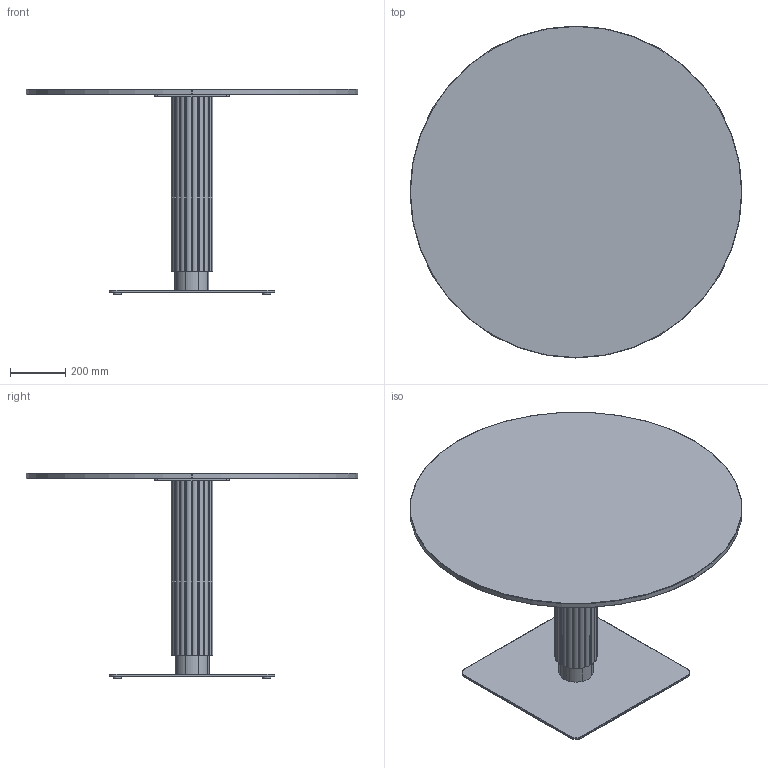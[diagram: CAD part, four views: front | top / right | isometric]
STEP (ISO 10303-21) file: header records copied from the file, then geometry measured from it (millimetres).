
FILE_DESCRIPTION( ('This file contains a STEP AP42 implementation' ,'as created by ZW3D STEP Interface translator.') ,'2;1' );
FILE_NAME( 'God - B_Carré - F1 - M1 - 1200 x 1200 x 750.stp' ,'24 912. 92615', (''), ('ZWCAD Software Co.'), 'Version 1.0', 'ZW3D to STEP translator', '' );
FILE_SCHEMA(('AUTOMOTIVE_DESIGN { 1 0 10303 214 1 1 1 1 }'));
Length unit declared in the file: millimetre
Products named in the file (15): 0; PIED BISTROT PARAMETRIQUE_; CROIX ACIER 370 V.02_; CRX-X370-02_; SOCLE ACIER L 600x600 V.02_; SCL-R600-02_; PLA-R30A-01_; PLA-R30A-01; COLONNE ACIER Ø48.5 V.02_; TUB-D048-02_; PLA-R48A-01_; Colonne GODRON H700_; WUERTH 0276063020 Euro-screw 6.3x2 Verzinkt_; PLATEAU BISTROT PARAMETRIQUE_; insert_m6_13_
Assembly tree (23 placements, depth 3):
  0
  PIED BISTROT PARAMETRIQUE_
    CROIX ACIER 370 V.02_
      CRX-X370-02_
    SOCLE ACIER L 600x600 V.02_
      SCL-R600-02_
      PLA-R30A-01_
      PLA-R30A-01  x3
    COLONNE ACIER Ø48.5 V.02_
      TUB-D048-02_
      PLA-R48A-01_  x2
    Colonne GODRON H700_
    WUERTH 0276063020 Euro-screw 6.3x2 Verzinkt_
    PLATEAU BISTROT PARAMETRIQUE_
      insert_m6_13_  x8
Bounding box: 1200 x 1200 x 744 mm (x, y, z)
Volume: 36550478.7 mm3; surface area: 4483020.1 mm2
Topology: 27 solids, 27 shells, 669 faces, 1662 edges, 1062 vertices
Faces by surface type: plane 302, cylinder 192, bspline 121, cone 53, torus 1
Full cylindrical faces by diameter (mm): 4.88 x1, 6 x8, 6.3 x1, 8 x45, 12 x2, 14 x2, 30 x4, 44.5 x3, 48.5 x1
Entity records: 16810 total; most frequent: CARTESIAN_POINT 4133, DIRECTION 2344, ORIENTED_EDGE 2338, EDGE_CURVE 1169, AXIS2_PLACEMENT_3D 829, VERTEX_POINT 756, VECTOR 686, LINE 686
